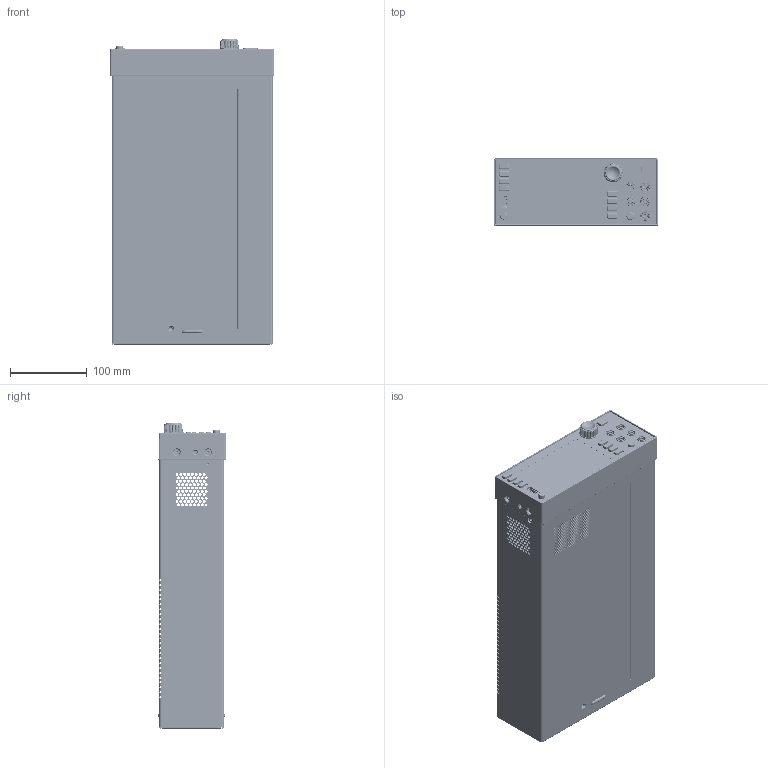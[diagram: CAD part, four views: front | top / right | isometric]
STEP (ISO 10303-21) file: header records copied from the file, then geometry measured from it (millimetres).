
FILE_DESCRIPTION((''),'2;1');
FILE_NAME('2461_ASM','2018-04-05T',('jpeters'),('Keithley Instruments'),'CREO PARAMETRIC BY PTC INC, 2016050','CREO PARAMETRIC BY PTC INC, 2016050','');
FILE_SCHEMA(('CONFIG_CONTROL_DESIGN'));
Length unit declared in the file: inch
Products named in the file (76): 2450-301; PEM-SOS-632-8; PEM-BS-632-2; PEM-BSOS-632-18; PEM-CLS-632-2; PEM-FHS-632-6; PEM-RAS-632-10-8; 2450-301_ASM; 3334732; PEM-AC-632-2; 3334732_ASM; 3353304; TM8039; 3353304_ASM; SW-466; CS-1234; 7002-323-2; 8781059_ASM; 1319306; CS-1614-3; 8781208_ASM; ST-166-39; 6-32X1-4PPH; LF-11-FUSELESS; CS-507; CS-1150-1; CS-761-9; CS-1032; CS-1644-2; CS-1646-4; CS-1640-14; TOKAMAK-C450; CS-368-16; CS-1646-3; 2450-140_ASM; CS-725; CS-713; 6-32X1-4PFHUC; 2450-312; 2450-318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
Assembly tree (123 placements, depth 4):
  2461_ASM
    2450-301_ASM
      2450-301
      PEM-SOS-632-8  x4
      PEM-BS-632-2  x4
      PEM-BSOS-632-18  x4
      PEM-CLS-632-2  x6
      PEM-FHS-632-6
      PEM-RAS-632-10-8  x3
    3334732_ASM
      3334732
      PEM-AC-632-2
      PEM-CLS-632-2  x3
      PEM-BS-632-2  x2
    3353304_ASM
      3353304
      TM8039
    8781059_ASM
      SW-466
      CS-1234
      7002-323-2
    8781208_ASM
      1319306
      CS-1614-3
    ST-166-39
    6-32X1-4PPH  x2
    LF-11-FUSELESS
    2450-140_ASM
      CS-507
      CS-1150-1
      CS-761-9
      CS-1032
      CS-1644-2
      CS-1646-4
      CS-1640-14
      TOKAMAK-C450  x3
      CS-368-16  x2
      CS-1646-3
    CS-725  x2
    CS-713  x2
    6-32X1-4PFHUC
    2450-312
    2461-FP-ASSEMBLY_ASM
      2450-318_ASM
        2450-318
        PEM-SOS-632-8  x2
      SW-545_ASM
        SW-545
        SW-545-WASHER
        SW-545-NUT
      2450-306_ASM
        2450-306
        2450-322  x5
      2450-305
      2450-112_ASM
        2450-112
        PEM-KFB3-632-8  x5
        2450-112-TOP-COMP
        2450-112-BOT-COMP
        CS-1649-40
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Bounding box: 213.85 x 89.09 x 397.58 mm (x, y, z)
Volume: 779899.9 mm3; surface area: 917184.1 mm2
Topology: 107 solids, 152 shells, 15646 faces, 42031 edges, 27250 vertices
Faces by surface type: plane 9169, cylinder 4849, cone 791, bspline 334, torus 322, extrusion 144, sphere 37
Entity records: 469053 total; most frequent: CARTESIAN_POINT 102935, ORIENTED_EDGE 76260, DIRECTION 74231, EDGE_CURVE 38371, VECTOR 27475, LINE 27331, VERTEX_POINT 24948, AXIS2_PLACEMENT_3D 23378
